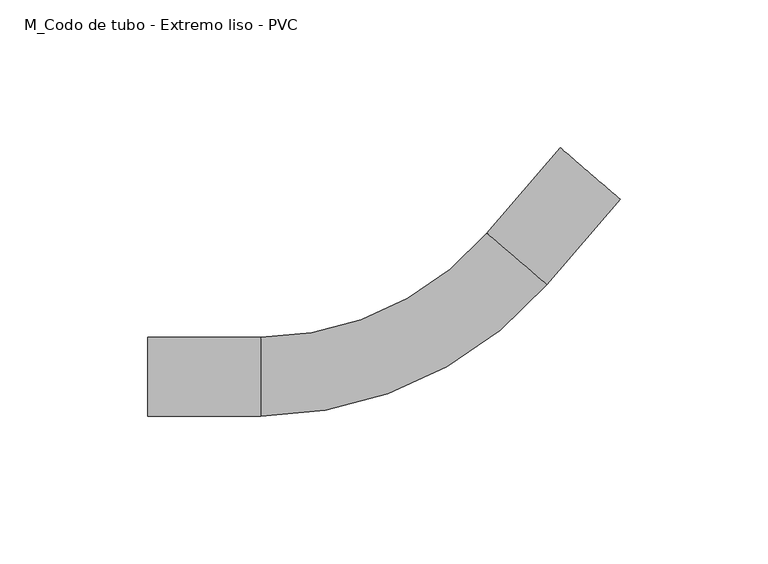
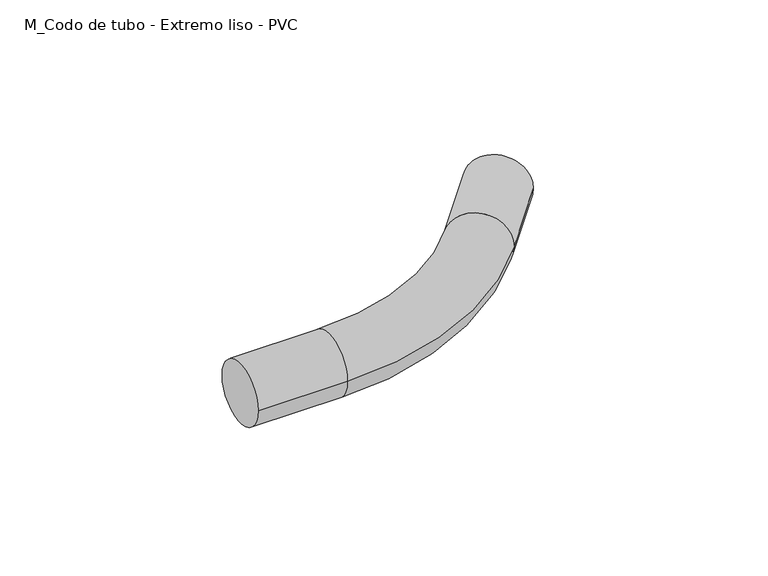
"""IFC4 building model written with IfcOpenShell, lengths in millimetres: cable carrier fitting geometry, M_Codo de tubo - Extremo liso - PVC : CODO ILUMINACION."""

from ifc_helpers import new_model, si_unit, point, frame, origin, place, context, project, spatial, circle_curve, ellipse_curve, trimmed, source, transform, mapped, element, save
from ifc_brep_helpers import plane_surface, cylinder_surface, revolved_surface, advanced_brep


def m_codo_de_tubo_extremo_liso_pvc_34f56efc(model_context):
    return source(origin(), model_context, "Body", "AdvancedBrep", [
        advanced_brep(
        [(-90.5473772, -13.335, 0.0), (-90.5473772, 13.335, 0.0), (-52.4473772, -13.335, 0.0), (-52.4473772, 13.335, 0.0), (24.0938965, 48.456514, 0.0), (44.3123461, 31.063895, 0.0), (69.1589446, 59.9473945, 0.0), (48.940495, 77.3400135, 0.0)],
        [
            (0, 1, circle_curve(frame((-90.5473772, 0.0, 0.0), z_axis=(-1.0, 0.0, 0.0), x_axis=(0.0, 1.0, 0.0)), 13.335)),
            (1, 0, circle_curve(frame((-90.5473772, 0.0, 0.0), z_axis=(-1.0, 0.0, 0.0), x_axis=(0.0, 1.0, 0.0)), 13.335)),
            (0, 2),
            (2, 3, circle_curve(frame((-52.4473772, 0.0, 0.0), z_axis=(-1.0, 0.0, 0.0), x_axis=(0.0, 1.0, 0.0)), 13.335)),
            (3, 1),
            (3, 2, circle_curve(frame((-52.4473772, 0.0, 0.0), z_axis=(-1.0, 0.0, 0.0), x_axis=(0.0, 1.0, 0.0)), 13.335)),
            (4, 3, circle_curve(frame((-52.4473772, 114.3, 0.0), z_axis=(0.0, 0.0, -1.0), x_axis=(0.0, -1.0, 0.0)), 100.965)),
            (2, 5, circle_curve(frame((-52.4473772, 114.3, 0.0), z_axis=(0.0, 0.0, 1.0), x_axis=(0.0, -1.0, 0.0)), 127.635)),
            (5, 4, circle_curve(frame((34.2031213, 39.7602045, 0.0), z_axis=(-0.6521416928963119, -0.7580970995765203, 0.0), x_axis=(-0.7580970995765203, 0.6521416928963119, 0.0)), 13.335)),
            (4, 5, circle_curve(frame((34.2031213, 39.7602045, 0.0), z_axis=(-0.6521416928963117, -0.7580970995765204, 0.0), x_axis=(-0.7580970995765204, 0.6521416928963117, 0.0)), 13.335)),
            (6, 7, circle_curve(frame((59.0497198, 68.643704, 0.0), z_axis=(0.6521416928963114, 0.7580970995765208, 0.0), x_axis=(-0.7580970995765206, 0.6521416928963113, 0.0)), 13.335)),
            (7, 6, circle_curve(frame((59.0497198, 68.643704, 0.0), z_axis=(0.6521416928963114, 0.7580970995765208, 0.0), x_axis=(-0.7580970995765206, 0.6521416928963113, 0.0)), 13.335)),
            (5, 6),
            (7, 4),
        ],
        [
            plane_surface(frame((-90.5473772, 0.0, 0.0), z_axis=(-1.0, 0.0, 0.0), x_axis=(0.0, 0.0, 1.0))),
            cylinder_surface(frame((-90.5473772, 0.0, 0.0), z_axis=(-1.0, 0.0, 0.0), x_axis=(0.0, 1.0, 0.0)), 13.335),
            revolved_surface(trimmed(ellipse_curve(frame((-52.4473772, 0.0, 0.0), z_axis=(-1.0, 0.0, 0.0), x_axis=(0.0, 1.0, 0.0)), 13.335, 13.335), [point((-52.4473772, -13.335, 0.0))], [point((-52.4473772, 13.335, 0.0))], True, "CARTESIAN"), (-52.4473772, 114.3, 0.0), (0.0, 0.0, 1.0)),
            revolved_surface(trimmed(ellipse_curve(frame((-52.4473772, 0.0, 0.0), z_axis=(-1.0, 0.0, 0.0), x_axis=(0.0, 1.0, 0.0)), 13.335, 13.335), [point((-52.4473772, 13.335, 0.0))], [point((-52.4473772, -13.335, 0.0))], True, "CARTESIAN"), (-52.4473772, 114.3, 0.0), (0.0, 0.0, 1.0)),
            plane_surface(frame((59.0497198, 68.643704, 0.0), z_axis=(0.6521416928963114, 0.7580970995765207, 0.0), x_axis=(0.0, 0.0, 1.0))),
            cylinder_surface(frame((34.2031213, 39.7602045, 0.0), z_axis=(-0.6521416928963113, -0.7580970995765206, 0.0), x_axis=(-0.7580970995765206, 0.6521416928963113, 0.0)), 13.335),
        ],
        [
            (0, [[1, 2]]),
            (1, [[-1, 3, 4, 5]]),
            (1, [[-2, -5, 6, -3]]),
            (2, [[7, -4, 8, 9]]),
            (3, [[-8, -6, -7, 10]]),
            (4, [[11, 12]]),
            (5, [[-9, 13, -12, 14]]),
            (5, [[-10, -14, -11, -13]]),
        ],
    ),
    ])


if __name__ == "__main__":
    model = new_model("IFC4")
    model_context = context("Model", 3, world=origin())
    ifc_project = project(units=[si_unit("LENGTHUNIT", "METRE", prefix="MILLI")], contexts=[model_context])
    site = spatial("IfcSite", under=ifc_project)
    building = spatial("IfcBuilding", under=site)
    placement = place(None, origin())
    m_codo_de_tubo_extremo_liso_pvc_shape = m_codo_de_tubo_extremo_liso_pvc_34f56efc(model_context)
    element("IfcCableCarrierFitting", 1, ObjectType="M_Codo de tubo - Extremo liso - PVC : CODO ILUMINACION", at=placement, inside=building, context=model_context, shape_type="MappedRepresentation", body=[
        mapped(m_codo_de_tubo_extremo_liso_pvc_shape, transform((0.0, 0.0, 0.0), x_axis=(1.0, 0.0, 0.0), y_axis=(0.0, 1.0, 0.0), z_axis=(0.0, 0.0, 1.0))),
    ])
    save(model, "model.ifc")
